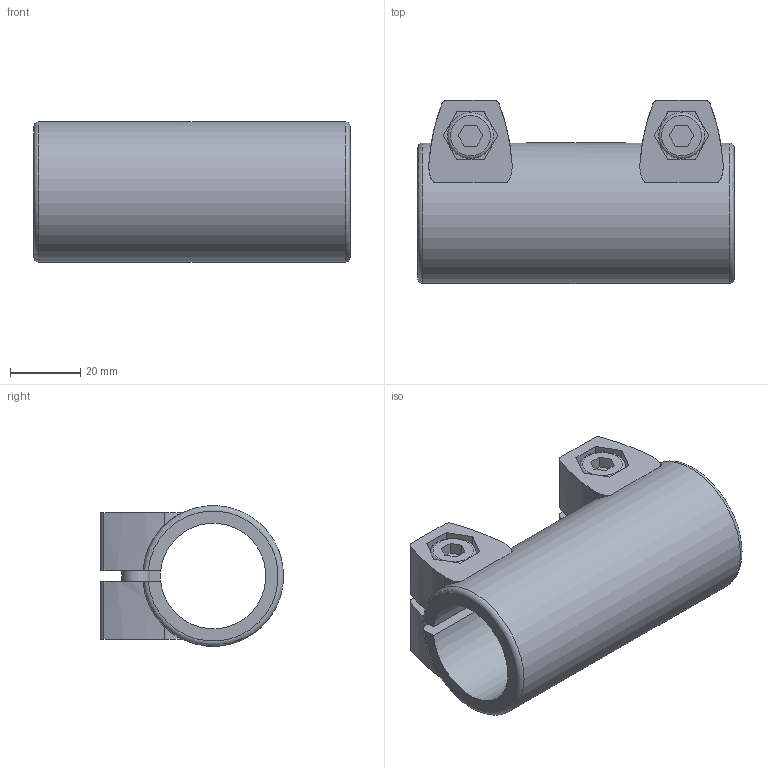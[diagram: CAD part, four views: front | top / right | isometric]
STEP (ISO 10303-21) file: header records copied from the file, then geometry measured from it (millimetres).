
FILE_DESCRIPTION( ( 'STEP AP203' ), '1' );
FILE_NAME( 'C:/Temp/Ganter_Step_05_03_2020/data/3_7/gn242/gn242_2/Tube connector GN 242-B30-B30-2-BL.stp', '2020-03-12T14:40:09', ( 'License CC BY-ND 4.0' ), ( 'CADENAS' ), ' ', 'PARTsolutions', ' ' );
FILE_SCHEMA( ( 'CONFIG_CONTROL_DESIGN' ) );
Length unit declared in the file: millimetre
Products named in the file (1): _Tube connector GN 242-B30-B30-2-BL
Bounding box: 90 x 52 x 39.96 mm (x, y, z)
Volume: 67863.3 mm3; surface area: 28054.9 mm2
Topology: 1 solids, 1 shells, 164 faces, 446 edges, 294 vertices
Faces by surface type: plane 84, cylinder 58, cone 14, torus 8
Full cylindrical faces by diameter (mm): 8 x2, 12 x2, 13 x2, 30 x1, 40 x1
Entity records: 5446 total; most frequent: CARTESIAN_POINT 1423, ORIENTED_EDGE 844, DIRECTION 782, EDGE_CURVE 422, VERTEX_POINT 288, AXIS2_PLACEMENT_3D 277, LINE 228, VECTOR 228
